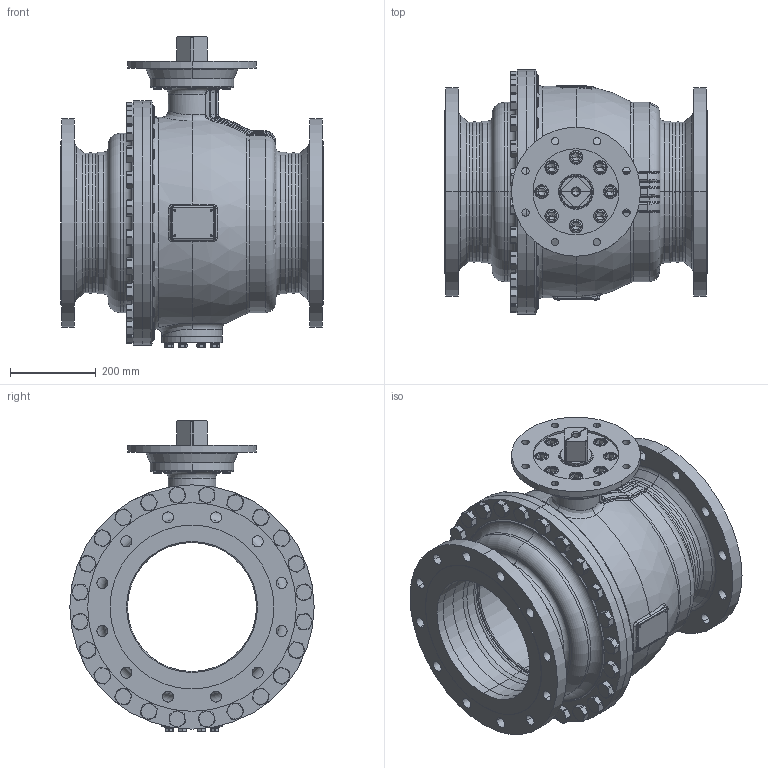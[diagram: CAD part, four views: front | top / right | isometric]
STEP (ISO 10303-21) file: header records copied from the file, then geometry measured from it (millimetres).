
FILE_DESCRIPTION((''),'2;1');
FILE_NAME('KHI-F_300-CL150-F25-4_SW0001','2026-02-05T15:14:14',('fischerkl'),('KLINGER'),'CREO PARAMETRIC BY PTC INC, 2023014','CREO PARAMETRIC BY PTC INC, 2023014','');
FILE_SCHEMA(('CONFIG_CONTROL_DESIGN'));
Products named in the file (1): KHI-F_300-CL150-F25-4_SW0001
Bounding box: 610 x 568 x 721.8 mm (x, y, z)
Volume: 32017119.6 mm3; surface area: 4578235.2 mm2
Topology: 1 solids, 4 shells, 3382 faces, 8560 edges, 5349 vertices
Faces by surface type: plane 1738, cylinder 759, cone 448, torus 297, bspline 111, sphere 29
Entity records: 143890 total; most frequent: CARTESIAN_POINT 63608, ORIENTED_EDGE 17068, DIRECTION 16448, EDGE_CURVE 8534, AXIS2_PLACEMENT_3D 6270, VERTEX_POINT 5349, VECTOR 3908, LINE 3908
